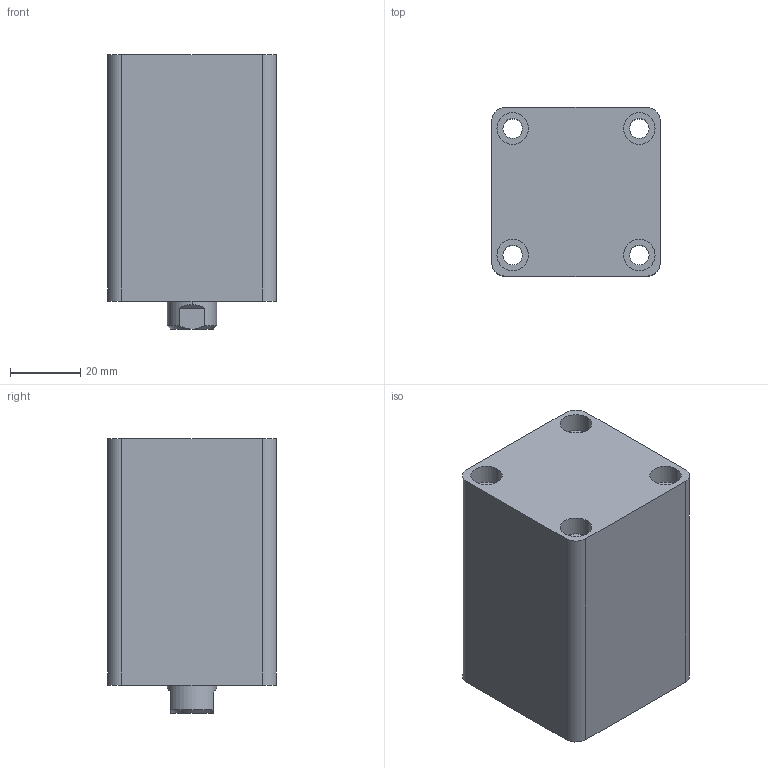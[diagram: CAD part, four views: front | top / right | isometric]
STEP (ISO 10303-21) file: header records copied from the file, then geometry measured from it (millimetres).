
FILE_DESCRIPTION (( 'STEP AP203' ), '1' );
FILE_NAME ('HTB-SD25-25N.STEP', '2019-10-07T05:58:58', ( '微软用户' ), ( '微软中国' ), 'SwSTEP 2.0', 'SolidWorks 2012', '' );
FILE_SCHEMA (( 'CONFIG_CONTROL_DESIGN' ));
Length unit declared in the file: millimetre
Products named in the file (3): HTB-SD25-25掛极; HTB-SD25-25N活塞杆; HTB-SD25-25N
Assembly tree (2 placements, depth 2):
  HTB-SD25-25N
    HTB-SD25-25掛极
    HTB-SD25-25N活塞杆
Bounding box: 48 x 48 x 78 mm (x, y, z)
Volume: 142534.4 mm3; surface area: 32899.4 mm2
Topology: 2 solids, 2 shells, 83 faces, 182 edges, 117 vertices
Faces by surface type: cylinder 42, plane 27, cone 8, torus 6
Entity records: 2653 total; most frequent: DIRECTION 454, CARTESIAN_POINT 429, ORIENTED_EDGE 360, AXIS2_PLACEMENT_3D 194, EDGE_CURVE 180, VERTEX_POINT 117, EDGE_LOOP 107, CIRCLE 106
